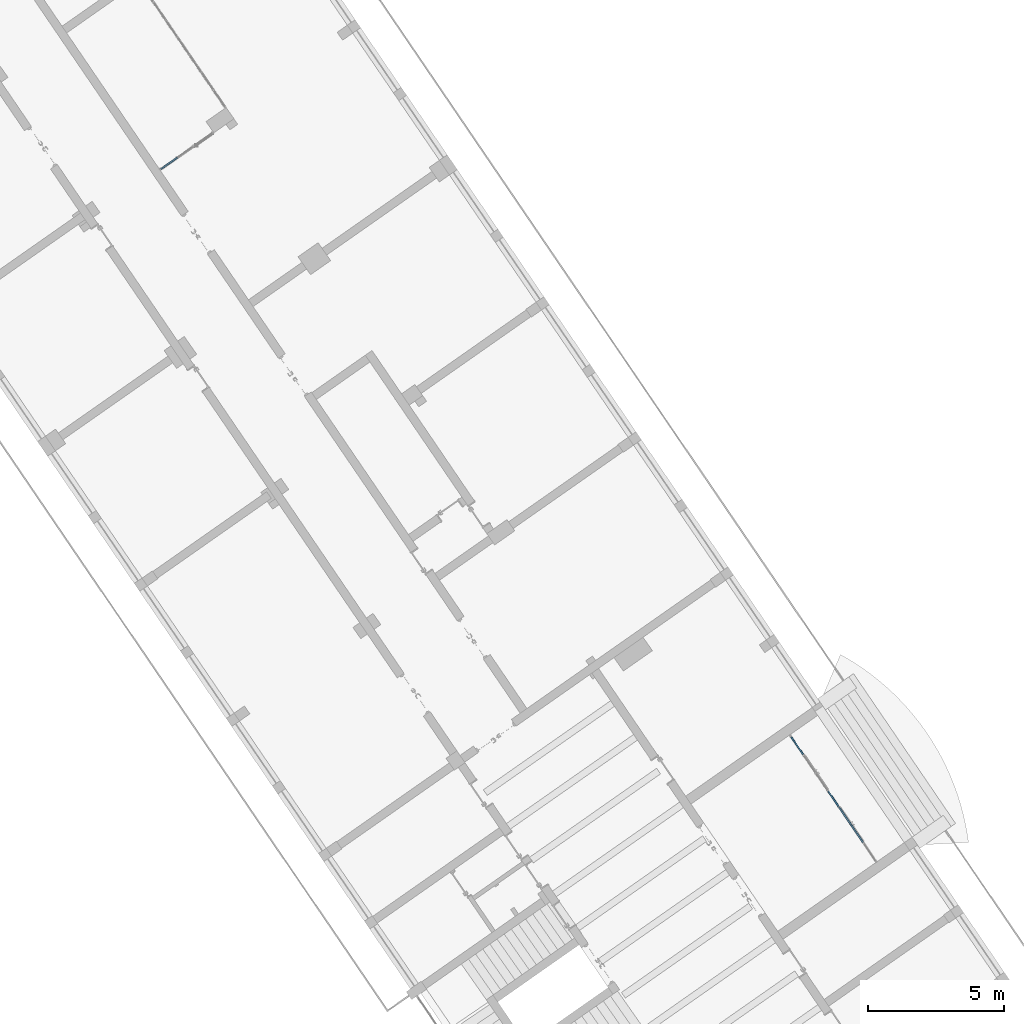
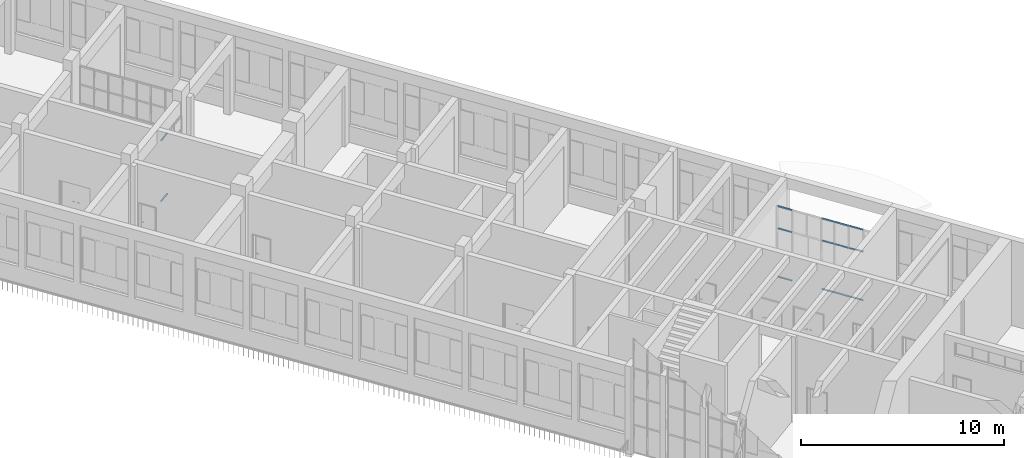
# One storey, part 33 of 157: 14 members, 2 elements without a shape of their own.
"""IFC2X3 building model written with IfcOpenShell, lengths in millimetres."""

import ifcopenshell
import ifcopenshell.guid

model = None  # the IFC model being written
_history = None  # IfcOwnerHistory: only IFC2X3 demands one
_inside = {}  # id of a spatial element -> (the spatial element, [elements in it])
_under = {}  # id of a project, library or spatial element -> (it, [spatial elements below it])
_declared = {}  # id of a project -> (the project, [libraries it declares])
_typed = {}  # id of a type object -> (the type object, [elements of that type])
_made_of = {}  # id of a material, layer set ... -> (it, [elements and type objects made of it])


def new_model(schema):
    """Start an empty IFC model of exactly this schema.

    Asked for "IFC4X3", IfcOpenShell would pick the latest addendum, in which some entities
    have other attributes; the version numbers below select the first issue.
    IFC2X3 requires an IfcOwnerHistory on every rooted entity: one is made here for all.
    """
    global model, _history
    if schema == "IFC4X3":
        model = ifcopenshell.file(schema_version=(4, 3, 0, 0))
    else:
        model = ifcopenshell.file(schema=schema)
    _inside.clear()
    _under.clear()
    _declared.clear()
    _typed.clear()
    _made_of.clear()
    _history = None
    if model.schema == "IFC2X3":
        org = make("IfcOrganization", Name="unknown")
        user = make(
            "IfcPersonAndOrganization",
            ThePerson=make("IfcPerson", FamilyName="unknown"),
            TheOrganization=org,
        )
        app = make(
            "IfcApplication",
            ApplicationDeveloper=org,
            Version="unknown",
            ApplicationFullName="unknown",
            ApplicationIdentifier="unknown",
        )
        _history = make(
            "IfcOwnerHistory",
            OwningUser=user,
            OwningApplication=app,
            ChangeAction="ADDED",
            CreationDate=0,
        )
    return model


def make(cls, **values):
    """One entity of the class cls with the attributes given. An attribute that is None is left unset."""
    return model.create_entity(
        cls, **{name: value for name, value in values.items() if value is not None}
    )


def entity(cls, *values):
    """Any entity or typed value of the class cls, its attributes in the order of the schema. None: left unset."""
    e = model.create_entity(cls)
    for i, value in enumerate(values):
        if value is not None:
            e[i] = value
    return e


def rooted(cls, **values):
    """An entity with a GlobalId (a new one), such as an element, a storey or a relation."""
    return make(cls, GlobalId=ifcopenshell.guid.new(), OwnerHistory=_history, **values)


def si_unit(unit_type, name, prefix=None):
    """IfcSIUnit, for example si_unit("LENGTHUNIT", "METRE", prefix="MILLI")."""
    return make("IfcSIUnit", UnitType=unit_type, Prefix=prefix, Name=name)


def converted_unit(unit_type, name, factor, base, dimensions=None, offset=None):
    """IfcConversionBasedUnit, such as the inch: factor (a typed value) times the base unit."""
    return make(
        "IfcConversionBasedUnit"
        if offset is None
        else "IfcConversionBasedUnitWithOffset",
        ConversionOffset=offset,
        Dimensions=None
        if dimensions is None
        else entity("IfcDimensionalExponents", *dimensions),
        UnitType=unit_type,
        Name=name,
        ConversionFactor=make(
            "IfcMeasureWithUnit", ValueComponent=factor, UnitComponent=base
        ),
    )


def derived_unit(unit_type, elements):
    """IfcDerivedUnit: a product of units, each with its exponent."""
    return make(
        "IfcDerivedUnit",
        Elements=[
            make("IfcDerivedUnitElement", Unit=unit, Exponent=power)
            for unit, power in elements
        ],
        UnitType=unit_type,
    )


def assignment(units):
    """IfcUnitAssignment: the units of a project."""
    return None if units is None else make("IfcUnitAssignment", Units=units)


def point(xyz):
    """IfcCartesianPoint."""
    return None if xyz is None else make("IfcCartesianPoint", Coordinates=xyz)


def direction(xyz):
    """IfcDirection."""
    return None if xyz is None else make("IfcDirection", DirectionRatios=xyz)


def frame(location, z_axis=None, x_axis=None):
    """IfcAxis2Placement3D, a coordinate frame: its origin and axes. An axis left out is left unset."""
    return make(
        "IfcAxis2Placement3D",
        Location=point(location),
        Axis=direction(z_axis),
        RefDirection=direction(x_axis),
    )


def frame_2d(location, x_axis=None):
    """IfcAxis2Placement2D, a coordinate frame in the plane: its origin and x axis."""
    return make(
        "IfcAxis2Placement2D", Location=point(location), RefDirection=direction(x_axis)
    )


def origin():
    """The frame at (0, 0, 0) with its axes left unset."""
    return frame((0.0, 0.0, 0.0))


def origin_2d_with_axis():
    """The frame at (0, 0) in the plane with the x axis (1, 0) written out."""
    return frame_2d((0.0, 0.0), x_axis=(1.0, 0.0))


def place(relative_to, where):
    """IfcLocalPlacement: puts the frame where relative to a parent placement (None: the world)."""
    return make(
        "IfcLocalPlacement", PlacementRelTo=relative_to, RelativePlacement=where
    )


def context(
    kind, dimensions, precision=None, world=None, true_north=None, identifier=None
):
    """IfcGeometricRepresentationContext, for example the 3D "Model" context."""
    return make(
        "IfcGeometricRepresentationContext",
        ContextIdentifier=identifier,
        ContextType=kind,
        CoordinateSpaceDimension=dimensions,
        Precision=precision,
        WorldCoordinateSystem=world,
        TrueNorth=true_north,
    )


def subcontext(parent, identifier, kind, view, scale=None):
    """IfcGeometricRepresentationSubContext, for example "Body" below "Model"."""
    return make(
        "IfcGeometricRepresentationSubContext",
        ContextIdentifier=identifier,
        ContextType=kind,
        ParentContext=parent,
        TargetScale=scale,
        TargetView=view,
    )


def project(units=None, contexts=None):
    """IfcProject with its units and contexts."""
    return rooted(
        "IfcProject",
        Name="project",
        RepresentationContexts=contexts,
        UnitsInContext=assignment(units),
    )


def spatial(cls, under=None, at=None, **own):
    """A site, building, storey or space (cls), placed at a placement, below another one or the project."""
    s = rooted(cls, ObjectPlacement=at, **own)
    if under is not None:
        _under.setdefault(under.id(), (under, []))[1].append(s)
    return s


def profile(cls, at=None, kind="AREA", **sizes):
    """A parametric profile (cls). Its sizes go by their IFC names, for example OverallWidth=200.0."""
    return make(cls, ProfileType=kind, Position=at, **sizes)


def rectangle(**sizes):
    """IfcRectangleProfileDef."""
    return profile("IfcRectangleProfileDef", **sizes)


def extrude(swept, where, along, depth):
    """IfcExtrudedAreaSolid: the profile swept, set in the frame where, extruded along a direction by depth."""
    return make(
        "IfcExtrudedAreaSolid",
        SweptArea=swept,
        Position=where,
        ExtrudedDirection=direction(along),
        Depth=depth,
    )


def shape(context_of_items, identifier, shape_type, items):
    """IfcShapeRepresentation: the items that make up one representation, for example the "Body"."""
    return make(
        "IfcShapeRepresentation",
        ContextOfItems=context_of_items,
        RepresentationIdentifier=identifier,
        RepresentationType=shape_type,
        Items=items,
    )


def source(mapping_origin, context_of_items, identifier, shape_type, items):
    """IfcRepresentationMap: a shape defined once, which mapped items show again and again."""
    return make(
        "IfcRepresentationMap",
        MappingOrigin=mapping_origin,
        MappedRepresentation=shape(context_of_items, identifier, shape_type, items),
    )


def transform(
    local_origin,
    x_axis=None,
    y_axis=None,
    z_axis=None,
    scale=None,
    scale2=None,
    scale3=None,
    uniform=True,
):
    """IfcCartesianTransformationOperator3D, or its non-uniform kind. x_axis, y_axis, z_axis: its Axis1, 2, 3."""
    if uniform:
        return make(
            "IfcCartesianTransformationOperator3D",
            Axis1=direction(x_axis),
            Axis2=direction(y_axis),
            LocalOrigin=point(local_origin),
            Scale=scale,
            Axis3=direction(z_axis),
        )
    return make(
        "IfcCartesianTransformationOperator3DnonUniform",
        Axis1=direction(x_axis),
        Axis2=direction(y_axis),
        LocalOrigin=point(local_origin),
        Scale=scale,
        Axis3=direction(z_axis),
        Scale2=scale2,
        Scale3=scale3,
    )


def mapped(mapping_source, mapping_target):
    """IfcMappedItem: shows the shape of a source again, moved by a transform."""
    return make(
        "IfcMappedItem", MappingSource=mapping_source, MappingTarget=mapping_target
    )


def material(Name=None, Category=None):
    """IfcMaterial."""
    return make("IfcMaterial", Name=Name, Category=Category)


def made_of(thing, what):
    """Note that an element or type object is made of a material, layer set ...; save() writes the relation."""
    if what is not None:
        _made_of.setdefault(what.id(), (what, []))[1].append(thing)
    return thing


def type_object(cls, material=None, **own):
    """A type object (cls), such as IfcWallType, which elements share."""
    return made_of(rooted(cls, **own), material)


def type_shapes(of_type, sources):
    """Give a type object the sources (RepresentationMaps) that its elements show as mapped items."""
    of_type.RepresentationMaps = sources


def element(
    cls,
    number,
    at=None,
    inside=None,
    cuts=None,
    type_object=None,
    material=None,
    context=None,
    identifier="Body",
    shape_type=None,
    held_by="IfcProductDefinitionShape",
    body=None,
    shapes=None,
    **own,
):
    """One element of the class cls, such as IfcWall. Its Tag is "e" and its number.

    at: its placement. inside: the storey or other place that contains it. cuts: it is an
    opening in that element (IfcRelVoidsElement). A single representation is given by context,
    identifier, shape_type and body (its items); several are given by shapes. held_by: the class
    of the entity that holds the representations. save() writes the other relations.
    """
    e = rooted(cls, Tag="e%d" % number, ObjectPlacement=at, **own)
    if body is not None:
        shapes = [shape(context, identifier, shape_type, body)]
    if shapes is not None:
        e.Representation = make(held_by, Representations=shapes)
    if inside is not None:
        _inside.setdefault(inside.id(), (inside, []))[1].append(e)
    if cuts is not None:
        rooted(
            "IfcRelVoidsElement", RelatingBuildingElement=cuts, RelatedOpeningElement=e
        )
    if type_object is not None:
        _typed.setdefault(type_object.id(), (type_object, []))[1].append(e)
    return made_of(e, material)


def aggregate(whole, parts):
    """IfcRelAggregates: a whole, such as a stair, and the parts it consists of."""
    return rooted("IfcRelAggregates", RelatingObject=whole, RelatedObjects=parts)


def save(model, path):
    """Write the relations noted so far, then the file.

    IfcRelAggregates (storeys below a building ...), IfcRelContainedInSpatialStructure (elements
    in a storey), IfcRelDefinesByType, IfcRelAssociatesMaterial and IfcRelDeclares: one each for
    every whole, place, type object, material and project.
    """
    for whole, parts in _under.values():
        aggregate(whole, parts)
    for where, things in _inside.values():
        rooted(
            "IfcRelContainedInSpatialStructure",
            RelatedElements=things,
            RelatingStructure=where,
        )
    for kind, things in _typed.values():
        rooted("IfcRelDefinesByType", RelatedObjects=things, RelatingType=kind)
    for what, things in _made_of.values():
        rooted("IfcRelAssociatesMaterial", RelatedObjects=things, RelatingMaterial=what)
    for by, libraries in _declared.values():
        rooted("IfcRelDeclares", RelatingContext=by, RelatedDefinitions=libraries)
    model.write(path)


model = new_model("IFC2X3")

# Units and contexts
model_context = context("Model", 3, precision=0.01, world=origin(), true_north=direction((6.123031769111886e-17, 1.0)))
body_context = subcontext(model_context, "Body", "Model", "MODEL_VIEW")
ifc_project = project(units=[si_unit("LENGTHUNIT", "METRE", prefix="MILLI"), si_unit("AREAUNIT", "SQUARE_METRE"), si_unit("VOLUMEUNIT", "CUBIC_METRE"), converted_unit("PLANEANGLEUNIT", "DEGREE", entity("IfcRatioMeasure", 0.017453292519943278), si_unit("PLANEANGLEUNIT", "RADIAN"), dimensions=[0, 0, 0, 0, 0, 0, 0]), si_unit("MASSUNIT", "GRAM", prefix="KILO"), derived_unit("MASSDENSITYUNIT", [(si_unit("MASSUNIT", "GRAM", prefix="KILO"), 1), (si_unit("LENGTHUNIT", "METRE"), -3)]), derived_unit("MOMENTOFINERTIAUNIT", [(si_unit("LENGTHUNIT", "METRE"), 4)]), si_unit("TIMEUNIT", "SECOND"), si_unit("FREQUENCYUNIT", "HERTZ"), si_unit("THERMODYNAMICTEMPERATUREUNIT", "DEGREE_CELSIUS"), derived_unit("THERMALTRANSMITTANCEUNIT", [(si_unit("MASSUNIT", "GRAM", prefix="KILO"), 1), (si_unit("THERMODYNAMICTEMPERATUREUNIT", "KELVIN"), -1), (si_unit("TIMEUNIT", "SECOND"), -3)]), derived_unit("THERMALCONDUCTANCEUNIT", [(si_unit("MASSUNIT", "GRAM", prefix="KILO"), 1), (si_unit("LENGTHUNIT", "METRE"), 1), (si_unit("THERMODYNAMICTEMPERATUREUNIT", "KELVIN"), -1), (si_unit("TIMEUNIT", "SECOND"), -3)]), derived_unit("VOLUMETRICFLOWRATEUNIT", [(si_unit("LENGTHUNIT", "METRE"), 3), (si_unit("TIMEUNIT", "SECOND"), -1)]), derived_unit("MASSFLOWRATEUNIT", [(si_unit("MASSUNIT", "GRAM", prefix="KILO"), 1), (si_unit("TIMEUNIT", "SECOND"), -1)]), derived_unit("ROTATIONALFREQUENCYUNIT", [(si_unit("TIMEUNIT", "SECOND"), -1)]), si_unit("ELECTRICCURRENTUNIT", "AMPERE"), si_unit("ELECTRICVOLTAGEUNIT", "VOLT"), si_unit("POWERUNIT", "WATT"), converted_unit("FORCEUNIT", "KIP", entity("IfcRatioMeasure", 2.088543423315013e-05), si_unit("FORCEUNIT", "NEWTON"), dimensions=[1, 1, -2, 0, 0, 0, 0]), si_unit("ILLUMINANCEUNIT", "LUX"), si_unit("LUMINOUSFLUXUNIT", "LUMEN"), si_unit("LUMINOUSINTENSITYUNIT", "CANDELA"), derived_unit("USERDEFINED", [(si_unit("MASSUNIT", "GRAM", prefix="KILO"), -1), (si_unit("LENGTHUNIT", "METRE"), -2), (si_unit("TIMEUNIT", "SECOND"), 3), (si_unit("LUMINOUSFLUXUNIT", "LUMEN"), 1)]), derived_unit("USERDEFINED", [(si_unit("MASSUNIT", "GRAM", prefix="KILO"), 1), (si_unit("LENGTHUNIT", "METRE"), 3), (si_unit("TIMEUNIT", "SECOND"), -3), (si_unit("ELECTRICCURRENTUNIT", "AMPERE"), -2)]), derived_unit("USERDEFINED", [(si_unit("LENGTHUNIT", "METRE"), 2), (si_unit("TIMEUNIT", "SECOND"), -2)]), derived_unit("SOUNDPOWERUNIT", [(si_unit("MASSUNIT", "GRAM", prefix="KILO"), 1), (si_unit("LENGTHUNIT", "METRE"), 2), (si_unit("TIMEUNIT", "SECOND"), -3)]), derived_unit("SOUNDPRESSUREUNIT", [(si_unit("MASSUNIT", "GRAM", prefix="KILO"), 1), (si_unit("LENGTHUNIT", "METRE"), -1), (si_unit("TIMEUNIT", "SECOND"), -2)]), derived_unit("LINEARVELOCITYUNIT", [(si_unit("LENGTHUNIT", "METRE"), 1), (si_unit("TIMEUNIT", "SECOND"), -1)]), si_unit("PRESSUREUNIT", "PASCAL"), derived_unit("USERDEFINED", [(si_unit("LENGTHUNIT", "METRE"), -2), (si_unit("MASSUNIT", "GRAM", prefix="KILO"), 1), (si_unit("TIMEUNIT", "SECOND"), -2)]), derived_unit("LINEARFORCEUNIT", [(si_unit("MASSUNIT", "GRAM", prefix="KILO"), 1), (si_unit("LENGTHUNIT", "METRE"), 1), (si_unit("TIMEUNIT", "SECOND"), -2), (si_unit("LENGTHUNIT", "METRE"), -1)]), derived_unit("PLANARFORCEUNIT", [(si_unit("MASSUNIT", "GRAM", prefix="KILO"), 1), (si_unit("LENGTHUNIT", "METRE"), 1), (si_unit("TIMEUNIT", "SECOND"), -2), (si_unit("LENGTHUNIT", "METRE"), -2)]), derived_unit("SPECIFICHEATCAPACITYUNIT", [(si_unit("LENGTHUNIT", "METRE"), 2), (si_unit("TIMEUNIT", "SECOND"), -2), (si_unit("THERMODYNAMICTEMPERATUREUNIT", "KELVIN"), -1)]), derived_unit("VAPORPERMEABILITYUNIT", [(si_unit("TIMEUNIT", "SECOND"), 1), (si_unit("LENGTHUNIT", "METRE"), -1)]), derived_unit("DYNAMICVISCOSITYUNIT", [(si_unit("MASSUNIT", "GRAM", prefix="KILO"), 1), (si_unit("LENGTHUNIT", "METRE"), -1), (si_unit("TIMEUNIT", "SECOND"), -1)]), derived_unit("THERMALEXPANSIONCOEFFICIENTUNIT", [(si_unit("THERMODYNAMICTEMPERATUREUNIT", "KELVIN"), -1)])], contexts=[model_context])

# Site, building, storey
site_placement = place(None, frame((0.0, 0.0, 0.0), z_axis=(0.0, 0.0, 1.0), x_axis=(0.8191520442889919, 0.5735764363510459, 0.0)))
site = spatial("IfcSite", under=ifc_project, at=site_placement, Name="Default", CompositionType="ELEMENT")
building_placement = place(site_placement, origin())
building = spatial("IfcBuilding", under=site, at=building_placement, CompositionType="ELEMENT")
storey_placement = place(building_placement, origin())
storey = spatial("IfcBuildingStorey", under=building, at=storey_placement, Name="1.EG +0.00", CompositionType="ELEMENT", Elevation=-4.331468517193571e-12)

# Curtain wall, members
curtain_wall_type_1 = type_object("IfcCurtainWallType", Name="Curtain Wall:Curtain_Wall_CJC_Int5", PredefinedType="NOTDEFINED")
curtain_wall_1_placement = place(storey_placement, origin())
curtain_wall_1 = element("IfcCurtainWall", 1, at=curtain_wall_1_placement, inside=storey, type_object=curtain_wall_type_1, Name="Curtain Wall:Curtain_Wall_CJC_Int5", ObjectType="Curtain Wall:Curtain_Wall_CJC_Int5")
ifc_material = material(Name="Aluminium")
member_type_1 = type_object("IfcMemberType", Name="Rectangular Mullion:5x5", PredefinedType="MULLION", material=ifc_material)
shared_shape_1 = source(origin(), body_context, "Body", "SweptSolid", [
    extrude(rectangle(XDim=49.99999999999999, YDim=50.0, at=origin_2d_with_axis()), frame((-25.0, 0.0, -701.0338390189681), z_axis=(0.0, 0.0, 1.0), x_axis=(0.0, -1.0, 0.0)), (0.0, 0.0, 1.0), 701.0338390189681),
])
type_shapes(member_type_1, [shared_shape_1])
member_1_placement = place(curtain_wall_1_placement, frame((-213339.67134149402, 145771.35891435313, 3700.0), z_axis=(-1.0, 0.0, 0.0), x_axis=(0.0, 0.0, 1.0)))
member_1 = element("IfcMember", 2, at=member_1_placement, type_object=member_type_1, material=ifc_material, Name="Rectangular Mullion:5x5", ObjectType="Rectangular Mullion:5x5", context=body_context, shape_type="MappedRepresentation", body=[
    mapped(shared_shape_1, transform((0.0, 0.0, 0.0), scale=1.0)),
])
member_type_2 = type_object("IfcMemberType", Name="Rectangular Mullion:5x5", PredefinedType="MULLION", material=ifc_material)
shared_shape_2 = source(origin(), body_context, "Body", "SweptSolid", [
    extrude(rectangle(XDim=50.000000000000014, YDim=50.0, at=origin_2d_with_axis()), frame((-25.0, 0.0, -726.0358275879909), z_axis=(0.0, 0.0, 1.0), x_axis=(0.0, -1.0, 0.0)), (0.0, 0.0, 1.0), 726.0358275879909),
])
type_shapes(member_type_2, [shared_shape_2])
member_2_placement = place(curtain_wall_1_placement, frame((-212613.63551390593, 145771.35891435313, 0.0), z_axis=(1.0, 0.0, 0.0), x_axis=(0.0, 0.0, -1.0)))
member_2 = element("IfcMember", 3, at=member_2_placement, type_object=member_type_2, material=ifc_material, Name="Rectangular Mullion:5x5", ObjectType="Rectangular Mullion:5x5", context=body_context, shape_type="MappedRepresentation", body=[
    mapped(shared_shape_2, transform((0.0, 0.0, 0.0), scale=1.0)),
])
aggregate(curtain_wall_1, [member_1, member_2])

curtain_wall_type_2 = type_object("IfcCurtainWallType", Name="Curtain Wall:Curtain_Wall_CJC_ENTR1", PredefinedType="NOTDEFINED")
curtain_wall_2_placement = place(storey_placement, origin())
curtain_wall_2 = element("IfcCurtainWall", 4, at=curtain_wall_2_placement, inside=storey, type_object=curtain_wall_type_2, Name="Curtain Wall:Curtain_Wall_CJC_ENTR1", ObjectType="Curtain Wall:Curtain_Wall_CJC_ENTR1")
member_type_3 = type_object("IfcMemberType", Name="Rectangular Mullion:5x5", PredefinedType="MULLION", material=ifc_material)
shared_shape_3 = source(origin(), body_context, "Body", "SweptSolid", [
    extrude(rectangle(XDim=50.000000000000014, YDim=50.0, at=origin_2d_with_axis()), frame((-25.0, 0.0, -750.0), z_axis=(0.0, 0.0, 1.0), x_axis=(0.0, -1.0, 0.0)), (0.0, 0.0, 1.0), 749.9999999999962),
])
type_shapes(member_type_3, [shared_shape_3])
member_3_placement = place(curtain_wall_2_placement, frame((-206400.2928443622, 111506.22665483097, 4300.0), z_axis=(0.012719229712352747, 0.9999191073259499, 0.0), x_axis=(0.0, 0.0, 1.0)))
member_3 = element("IfcMember", 5, at=member_3_placement, type_object=member_type_3, material=ifc_material, Name="Rectangular Mullion:5x5", ObjectType="Rectangular Mullion:5x5", context=body_context, shape_type="MappedRepresentation", body=[
    mapped(shared_shape_3, transform((0.0, 0.0, 0.0), scale=1.0)),
])
member_4_placement = place(curtain_wall_2_placement, frame((-206390.1174605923, 112306.16194069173, 4300.0), z_axis=(0.01271922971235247, 0.9999191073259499, 0.0), x_axis=(0.0, 0.0, 1.0)))
member_4 = element("IfcMember", 6, at=member_4_placement, type_object=member_type_3, material=ifc_material, Name="Rectangular Mullion:5x5", ObjectType="Rectangular Mullion:5x5", context=body_context, shape_type="MappedRepresentation", body=[
    mapped(shared_shape_3, transform((0.0, 0.0, 0.0), scale=1.0)),
])
member_type_4 = type_object("IfcMemberType", Name="Rectangular Mullion:5x5", PredefinedType="MULLION", material=ifc_material)
shared_shape_4 = source(origin(), body_context, "Body", "SweptSolid", [
    extrude(rectangle(XDim=50.000000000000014, YDim=50.0, at=origin_2d_with_axis()), frame((-25.0, 0.0, -760.0), z_axis=(0.0, 0.0, 1.0), x_axis=(0.0, -1.0, 0.0)), (0.0, 0.0, 1.0), 760.0000000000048),
])
type_shapes(member_type_4, [shared_shape_4])
member_5_placement = place(curtain_wall_2_placement, frame((-206350.4970600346, 115420.90996031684, 4300.0), z_axis=(0.012719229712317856, 0.9999191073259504, 0.0), x_axis=(0.0, 0.0, 1.0)))
member_5 = element("IfcMember", 7, at=member_5_placement, type_object=member_type_4, material=ifc_material, Name="Rectangular Mullion:5x5", ObjectType="Rectangular Mullion:5x5", context=body_context, shape_type="MappedRepresentation", body=[
    mapped(shared_shape_4, transform((0.0, 0.0, 0.0), scale=1.0)),
])
member_type_5 = type_object("IfcMemberType", Name="Rectangular Mullion:5x5", PredefinedType="MULLION", material=ifc_material)
shared_shape_5 = source(origin(), body_context, "Body", "SweptSolid", [
    extrude(rectangle(XDim=50.000000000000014, YDim=50.0, at=origin_2d_with_axis()), frame((-25.0, 0.0, -775.0), z_axis=(0.0, 0.0, 1.0), x_axis=(0.0, -1.0, 0.0)), (0.0, 0.0, 1.0), 774.9999999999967),
])
type_shapes(member_type_5, [shared_shape_5])
member_6_placement = place(curtain_wall_2_placement, frame((-206399.9748636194, 111531.22463251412, 0.0), z_axis=(-0.01271922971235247, -0.9999191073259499, 0.0), x_axis=(0.0, 0.0, -1.0)))
member_6 = element("IfcMember", 8, at=member_6_placement, type_object=member_type_5, material=ifc_material, Name="Rectangular Mullion:5x5", ObjectType="Rectangular Mullion:5x5", context=body_context, shape_type="MappedRepresentation", body=[
    mapped(shared_shape_5, transform((0.0, 0.0, 0.0), scale=1.0)),
])
member_type_6 = type_object("IfcMemberType", Name="Rectangular Mullion:5x5", PredefinedType="MULLION", material=ifc_material)
shared_shape_6 = source(origin(), body_context, "Body", "SweptSolid", [
    extrude(rectangle(XDim=50.000000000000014, YDim=50.0, at=origin_2d_with_axis()), frame((-25.0, 0.0, -760.0), z_axis=(0.0, 0.0, 1.0), x_axis=(0.0, -1.0, 0.0)), (0.0, 0.0, 1.0), 760.0000000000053),
])
type_shapes(member_type_6, [shared_shape_6])
member_7_placement = place(curtain_wall_2_placement, frame((-206360.16367461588, 114660.97143874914, 0.0), z_axis=(-0.012719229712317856, -0.9999191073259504, 0.0), x_axis=(0.0, 0.0, -1.0)))
member_7 = element("IfcMember", 9, at=member_7_placement, type_object=member_type_6, material=ifc_material, Name="Rectangular Mullion:5x5", ObjectType="Rectangular Mullion:5x5", context=body_context, shape_type="MappedRepresentation", body=[
    mapped(shared_shape_6, transform((0.0, 0.0, 0.0), scale=1.0)),
])
member_type_7 = type_object("IfcMemberType", Name="Rectangular Mullion:5x5", PredefinedType="MULLION", material=ifc_material)
shared_shape_7 = source(origin(), body_context, "Body", "SweptSolid", [
    extrude(rectangle(XDim=50.0, YDim=50.0, at=origin_2d_with_axis()), frame((0.0, 0.0, -750.0), z_axis=(0.0, 0.0, 1.0), x_axis=(0.0, -1.0, 0.0)), (0.0, 0.0, 1.0), 749.9999999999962),
])
type_shapes(member_type_7, [shared_shape_7])
member_8_placement = place(curtain_wall_2_placement, frame((-206400.2928443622, 111506.22665483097, 2950.0), z_axis=(0.012719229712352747, 0.9999191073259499, 0.0), x_axis=(0.0, 0.0, 1.0)))
member_8 = element("IfcMember", 10, at=member_8_placement, type_object=member_type_7, material=ifc_material, Name="Rectangular Mullion:5x5", ObjectType="Rectangular Mullion:5x5", context=body_context, shape_type="MappedRepresentation", body=[
    mapped(shared_shape_7, transform((0.0, 0.0, 0.0), scale=1.0)),
])
member_9_placement = place(curtain_wall_2_placement, frame((-206390.1174605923, 112306.16194069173, 2950.0), z_axis=(0.01271922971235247, 0.9999191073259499, 0.0), x_axis=(0.0, 0.0, 1.0)))
member_9 = element("IfcMember", 11, at=member_9_placement, type_object=member_type_7, material=ifc_material, Name="Rectangular Mullion:5x5", ObjectType="Rectangular Mullion:5x5", context=body_context, shape_type="MappedRepresentation", body=[
    mapped(shared_shape_7, transform((0.0, 0.0, 0.0), scale=1.0)),
])
member_type_8 = type_object("IfcMemberType", Name="Rectangular Mullion:5x5", PredefinedType="MULLION", material=ifc_material)
shared_shape_8 = source(origin(), body_context, "Body", "SweptSolid", [
    extrude(rectangle(XDim=50.0, YDim=50.0, at=origin_2d_with_axis()), frame((0.0, 0.0, -760.0), z_axis=(0.0, 0.0, 1.0), x_axis=(0.0, -1.0, 0.0)), (0.0, 0.0, 1.0), 760.0000000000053),
])
type_shapes(member_type_8, [shared_shape_8])
member_10_placement = place(curtain_wall_2_placement, frame((-206350.4970600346, 115420.90996031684, 2950.0), z_axis=(0.012719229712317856, 0.9999191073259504, 0.0), x_axis=(0.0, 0.0, 1.0)))
member_10 = element("IfcMember", 12, at=member_10_placement, type_object=member_type_8, material=ifc_material, Name="Rectangular Mullion:5x5", ObjectType="Rectangular Mullion:5x5", context=body_context, shape_type="MappedRepresentation", body=[
    mapped(shared_shape_8, transform((0.0, 0.0, 0.0), scale=1.0)),
])
member_type_9 = type_object("IfcMemberType", Name="Rectangular Mullion:5x5", PredefinedType="MULLION", material=ifc_material)
shared_shape_9 = source(origin(), body_context, "Body", "SweptSolid", [
    extrude(rectangle(XDim=50.000000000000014, YDim=50.0, at=origin_2d_with_axis()), frame((-25.0, 0.0, -655.0), z_axis=(0.0, 0.0, 1.0), x_axis=(0.0, -1.0, 0.0)), (0.0, 0.0, 1.0), 655.000000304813),
])
type_shapes(member_type_9, [shared_shape_9])
member_11_placement = place(curtain_wall_2_placement, frame((-206381.15040364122, 113011.1049116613, 4300.0), z_axis=(0.012719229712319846, 0.9999191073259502, 0.0), x_axis=(0.0, 0.0, 1.0)))
member_11 = element("IfcMember", 13, at=member_11_placement, type_object=member_type_9, material=ifc_material, Name="Rectangular Mullion:5x5", ObjectType="Rectangular Mullion:5x5", context=body_context, shape_type="MappedRepresentation", body=[
    mapped(shared_shape_9, transform((0.0, 0.0, 0.0), scale=1.0)),
])
member_type_10 = type_object("IfcMemberType", Name="Rectangular Mullion:5x5", PredefinedType="MULLION", material=ifc_material)
shared_shape_10 = source(origin(), body_context, "Body", "SweptSolid", [
    extrude(rectangle(XDim=50.000000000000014, YDim=50.0, at=origin_2d_with_axis()), frame((-25.0, 0.0, -775.0), z_axis=(0.0, 0.0, 1.0), x_axis=(0.0, -1.0, 0.0)), (0.0, 0.0, 1.0), 774.9999999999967),
])
type_shapes(member_type_10, [shared_shape_10])
member_12_placement = place(curtain_wall_2_placement, frame((-206409.83226664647, 110756.28732433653, 0.0), z_axis=(-0.012719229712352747, -0.9999191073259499, 0.0), x_axis=(0.0, 0.0, -1.0)))
member_12 = element("IfcMember", 14, at=member_12_placement, type_object=member_type_10, material=ifc_material, Name="Rectangular Mullion:5x5", ObjectType="Rectangular Mullion:5x5", context=body_context, shape_type="MappedRepresentation", body=[
    mapped(shared_shape_10, transform((0.0, 0.0, 0.0), scale=1.0)),
])
member_type_11 = type_object("IfcMemberType", Name="Rectangular Mullion:5x5", PredefinedType="MULLION", material=ifc_material)
shared_shape_11 = source(origin(), body_context, "Body", "SweptSolid", [
    extrude(rectangle(XDim=50.000000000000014, YDim=50.0, at=origin_2d_with_axis()), frame((-25.0, 0.0, -655.0), z_axis=(0.0, 0.0, 1.0), x_axis=(0.0, -1.0, 0.0)), (0.0, 0.0, 1.0), 655.0000003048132),
])
type_shapes(member_type_11, [shared_shape_11])
member_13_placement = place(curtain_wall_2_placement, frame((-206389.48149910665, 112356.15789605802, 0.0), z_axis=(-0.012719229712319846, -0.9999191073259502, 0.0), x_axis=(0.0, 0.0, -1.0)))
member_13 = element("IfcMember", 15, at=member_13_placement, type_object=member_type_11, material=ifc_material, Name="Rectangular Mullion:5x5", ObjectType="Rectangular Mullion:5x5", context=body_context, shape_type="MappedRepresentation", body=[
    mapped(shared_shape_11, transform((0.0, 0.0, 0.0), scale=1.0)),
])
member_type_12 = type_object("IfcMemberType", Name="Rectangular Mullion:5x5", PredefinedType="MULLION", material=ifc_material)
shared_shape_12 = source(origin(), body_context, "Body", "SweptSolid", [
    extrude(rectangle(XDim=50.0, YDim=50.0, at=origin_2d_with_axis()), frame((0.0, 0.0, -655.0), z_axis=(0.0, 0.0, 1.0), x_axis=(0.0, -1.0, 0.0)), (0.0, 0.0, 1.0), 655.000000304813),
])
type_shapes(member_type_12, [shared_shape_12])
member_14_placement = place(curtain_wall_2_placement, frame((-206381.15040364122, 113011.1049116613, 2950.0), z_axis=(0.012719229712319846, 0.9999191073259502, 0.0), x_axis=(0.0, 0.0, 1.0)))
member_14 = element("IfcMember", 16, at=member_14_placement, type_object=member_type_12, material=ifc_material, Name="Rectangular Mullion:5x5", ObjectType="Rectangular Mullion:5x5", context=body_context, shape_type="MappedRepresentation", body=[
    mapped(shared_shape_12, transform((0.0, 0.0, 0.0), scale=1.0)),
])
aggregate(curtain_wall_2, [member_5, member_7, member_10, member_3, member_4, member_11, member_12, member_6, member_13, member_8, member_9, member_14])

save(model, "model.ifc")
